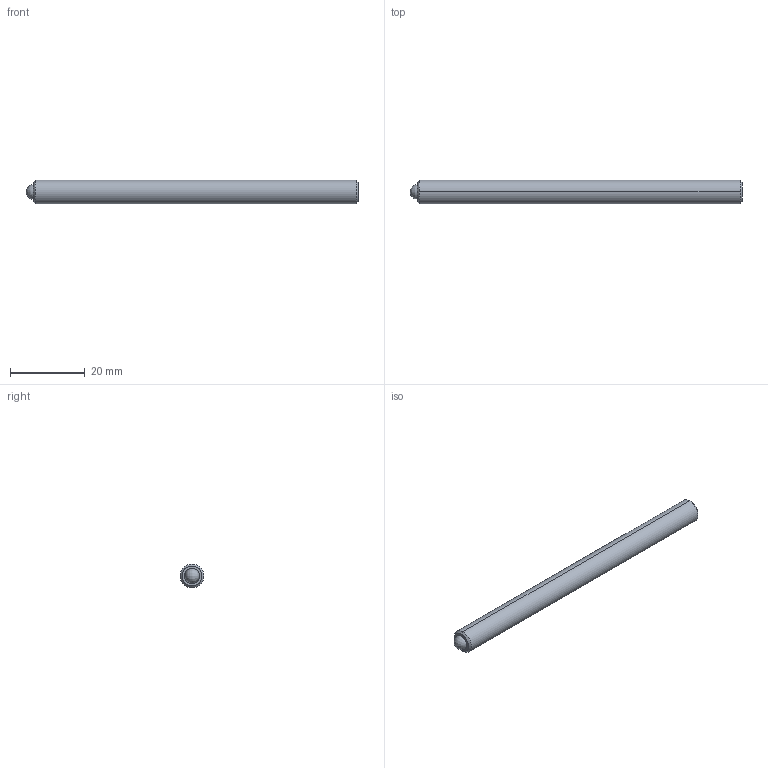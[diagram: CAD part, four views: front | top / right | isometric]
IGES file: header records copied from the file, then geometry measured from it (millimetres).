
Start section: SolidWorks IGES file using analytic representation for surfaces
Global section: file name: C:\Users\workpc\Desktop\KMA Solidworks\TS250-80-3500.IGS; native system: SolidWorks 2013; preprocessor: SolidWorks 2013; author: workpc; date: 130211.161219; units: inch
Bounding box: 88.9 x 6.35 x 6.35 mm (x, y, z)
Surface area: 1877.7 mm2 (no closed solid volume)
Topology: 0 solids, 0 shells, 20 faces, 204 edges, 200 vertices
Faces by surface type: revolution 10, bspline 10
